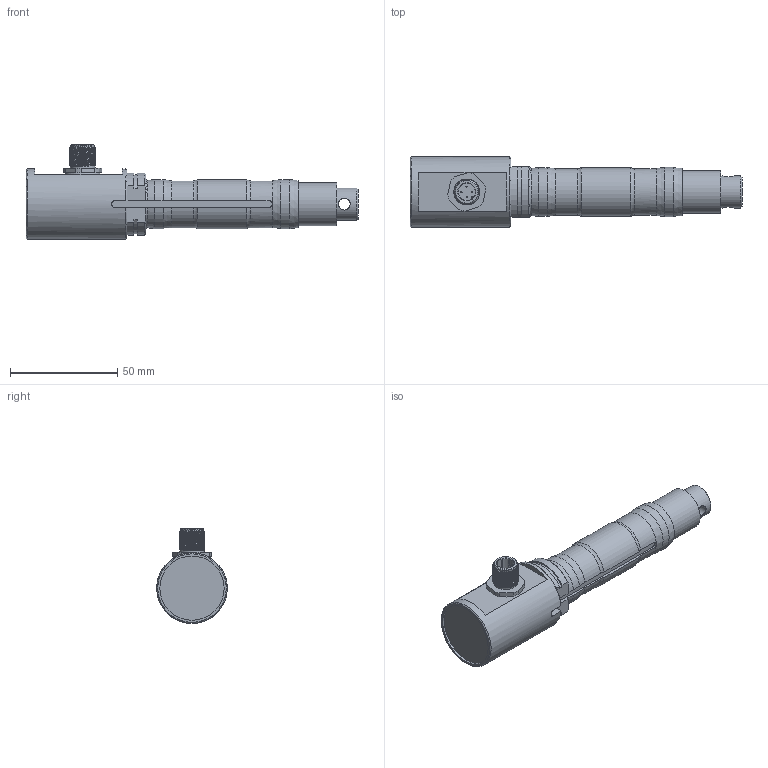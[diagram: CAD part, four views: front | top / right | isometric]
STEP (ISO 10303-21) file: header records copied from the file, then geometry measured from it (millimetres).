
FILE_DESCRIPTION(/* description */ ('Alibre Inc.'),/* implementation_level */ '2;1');
FILE_NAME(/* name */ 'export-193C0F02-8DB8-4CCF-842F-1996CAF0F652',/* time_stamp */ '2019-04-09T16:16:35+02:00',/* author */ (''),/* organization */ (''),/* preprocessor_version */ 'ST-DEVELOPER v17',/* originating_system */ 'Alibre',/* authorisation */ '');
FILE_SCHEMA (('CONFIG_CONTROL_DESIGN'));
Length unit declared in the file: centimetre
Products named in the file (3): ID_1
Bounding box: 155 x 33 x 44.33 mm (x, y, z)
Volume: 138920.2 mm3; surface area: 90006.8 mm2
Topology: 6 solids, 7 shells, 183 faces, 436 edges, 277 vertices
Faces by surface type: plane 73, cylinder 61, bspline 23, cone 18, torus 8
Full cylindrical faces by diameter (mm): 0.5 x8, 5.5 x1, 8 x2, 10 x2, 11 x1, 11.5 x1, 13 x2, 14.5 x1, 15 x1, 20 x1, 23 x1, 30 x1, 33 x1
Entity records: 15477 total; most frequent: CARTESIAN_POINT 11762, ORIENTED_EDGE 790, DIRECTION 513, EDGE_CURVE 388, VERTEX_POINT 262, EDGE_LOOP 240, FACE_BOUND 240, AXIS2_PLACEMENT_3D 220
